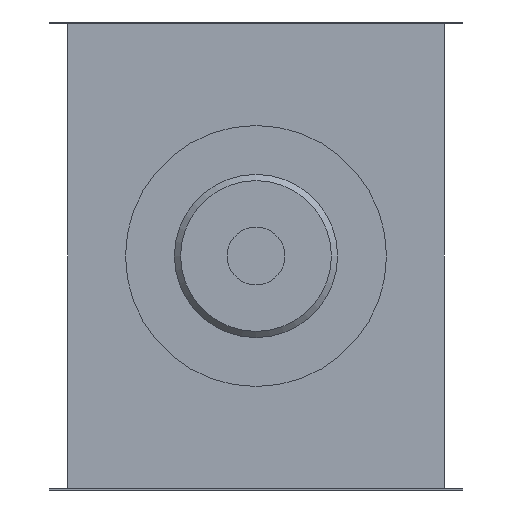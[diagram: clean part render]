
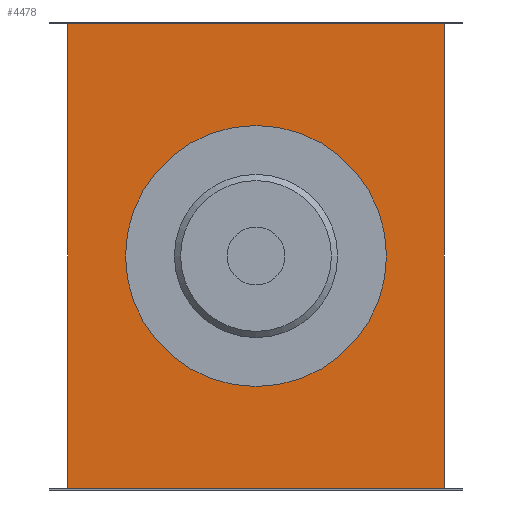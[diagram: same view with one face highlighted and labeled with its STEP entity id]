
A CAD part, front view. The second image highlights one B-rep face of the part: STEP entity #4478.
In plain terms, the highlighted planar face has unit normal (0, -1, 0).
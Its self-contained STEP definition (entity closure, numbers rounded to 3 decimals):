
#40=FACE_BOUND('',#624,.T.);
#168=PLANE('',#4894);
#382=FACE_OUTER_BOUND('',#623,.T.);
#623=EDGE_LOOP('',(#3917,#3918,#3919,#3920));
#624=EDGE_LOOP('',(#3921));
#1003=LINE('',#7209,#1444);
#1062=LINE('',#7354,#1503);
#1067=LINE('',#7364,#1508);
#1068=LINE('',#7365,#1509);
#1444=VECTOR('',#5932,10.);
#1503=VECTOR('',#6089,10.);
#1508=VECTOR('',#6104,10.);
#1509=VECTOR('',#6105,10.);
#1692=CIRCLE('',#4875,115.);
#2068=VERTEX_POINT('',#7203);
#2070=VERTEX_POINT('',#7207);
#2087=VERTEX_POINT('',#7302);
#2105=VERTEX_POINT('',#7348);
#2107=VERTEX_POINT('',#7352);
#2641=EDGE_CURVE('',#2068,#2070,#1003,.T.);
#2689=EDGE_CURVE('',#2087,#2087,#1692,.T.);
#2713=EDGE_CURVE('',#2105,#2107,#1062,.T.);
#2718=EDGE_CURVE('',#2068,#2107,#1067,.T.);
#2719=EDGE_CURVE('',#2070,#2105,#1068,.T.);
#3917=ORIENTED_EDGE('',*,*,#2713,.T.);
#3918=ORIENTED_EDGE('',*,*,#2718,.F.);
#3919=ORIENTED_EDGE('',*,*,#2641,.T.);
#3920=ORIENTED_EDGE('',*,*,#2719,.T.);
#3921=ORIENTED_EDGE('',*,*,#2689,.T.);
#4478=ADVANCED_FACE('',(#382,#40),#168,.T.);
#4875=AXIS2_PLACEMENT_3D('',#7304,#6044,#6045);
#4894=AXIS2_PLACEMENT_3D('',#7363,#6102,#6103);
#5932=DIRECTION('',(-1.,0.,0.));
#6044=DIRECTION('center_axis',(0.,1.,0.));
#6045=DIRECTION('ref_axis',(-1.,0.,0.));
#6089=DIRECTION('',(1.,0.,0.));
#6102=DIRECTION('center_axis',(0.,-1.,0.));
#6103=DIRECTION('ref_axis',(1.,0.,0.));
#6104=DIRECTION('',(0.,0.,-1.));
#6105=DIRECTION('',(0.,0.,-1.));
#7203=CARTESIAN_POINT('',(202.,-102.,249.));
#7207=CARTESIAN_POINT('',(-202.,-102.,249.));
#7209=CARTESIAN_POINT('',(-100.,-102.,249.));
#7302=CARTESIAN_POINT('',(115.,-102.,0.));
#7304=CARTESIAN_POINT('Origin',(0.,-102.,0.));
#7348=CARTESIAN_POINT('',(-202.,-102.,-249.));
#7352=CARTESIAN_POINT('',(202.,-102.,-249.));
#7354=CARTESIAN_POINT('',(-100.,-102.,-249.));
#7363=CARTESIAN_POINT('Origin',(-200.,-102.,0.));
#7364=CARTESIAN_POINT('',(202.,-102.,0.));
#7365=CARTESIAN_POINT('',(-202.,-102.,0.));
